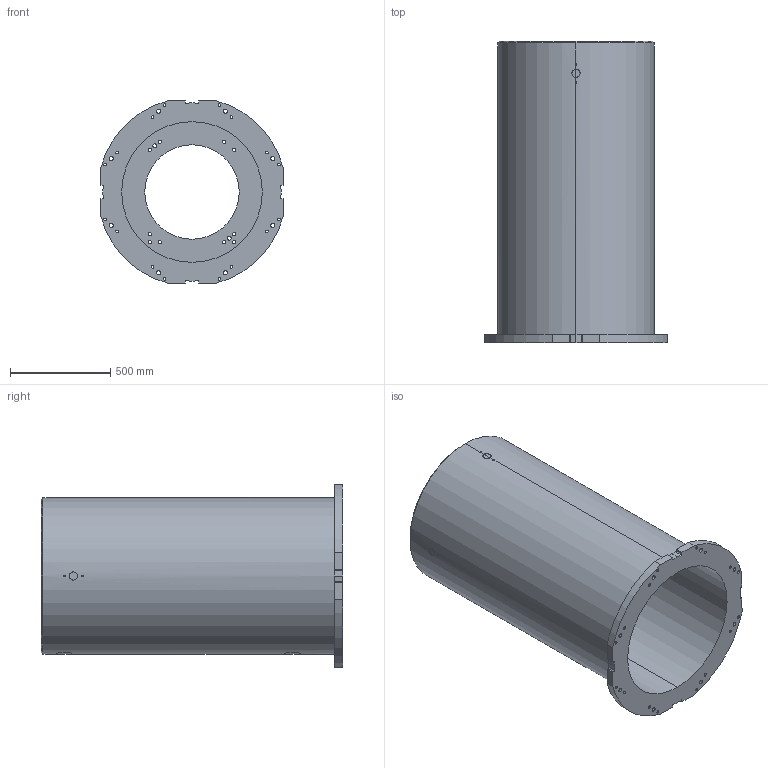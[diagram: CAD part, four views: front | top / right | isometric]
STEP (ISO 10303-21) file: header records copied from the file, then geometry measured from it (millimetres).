
FILE_DESCRIPTION (( 'STEP AP214' ), '1' );
FILE_NAME ('0001051974-100.STEP', '2024-01-24T08:49:38', ( '' ), ( '' ), 'SwSTEP 2.0', 'SolidWorks 2022', '' );
FILE_SCHEMA (( 'AUTOMOTIVE_DESIGN' ));
Length unit declared in the file: millimetre
Products named in the file (1): 0001051974-100
Bounding box: 910 x 1500 x 910 mm (x, y, z)
Volume: 155022416.2 mm3; surface area: 8034186.3 mm2
Topology: 1 solids, 1 shells, 203 faces, 565 edges, 376 vertices
Faces by surface type: cylinder 149, plane 28, bspline 24, cone 2
Entity records: 12343 total; most frequent: CARTESIAN_POINT 6212, ORIENTED_EDGE 1130, DIRECTION 969, EDGE_CURVE 565, AXIS2_PLACEMENT_3D 378, VERTEX_POINT 376, EDGE_LOOP 289, VECTOR 213
